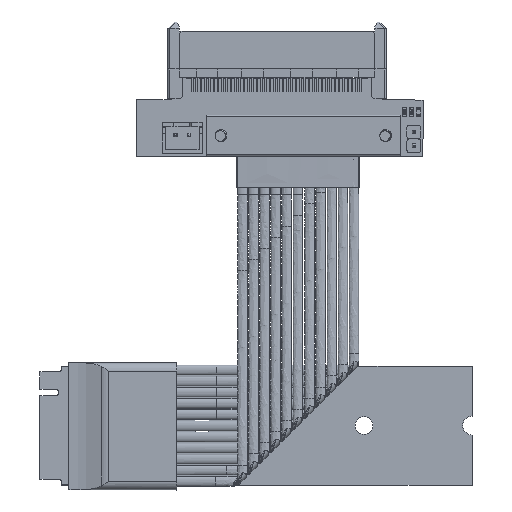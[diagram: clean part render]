
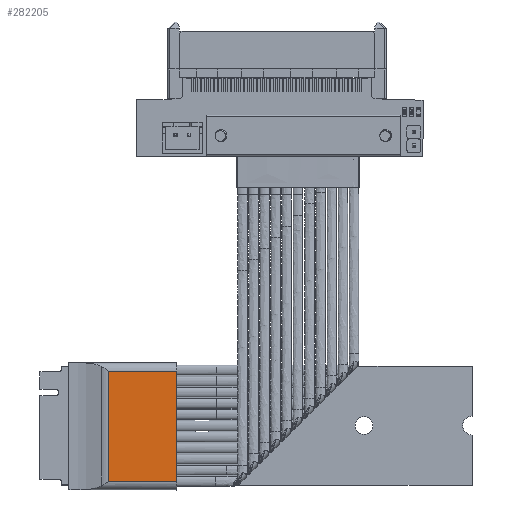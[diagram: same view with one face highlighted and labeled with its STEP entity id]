
A CAD part, top view. The second image highlights one B-rep face of the part: STEP entity #282205.
In plain terms, the highlighted planar face has unit normal (0, 0, 1).
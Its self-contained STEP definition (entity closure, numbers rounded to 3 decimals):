
#281882 = VERTEX_POINT('',#281883);
#281883 = CARTESIAN_POINT('',(1.599,20.,
    1.599));
#281890 = EDGE_CURVE('',#281891,#281882,#281893,.T.);
#281891 = VERTEX_POINT('',#281892);
#281892 = CARTESIAN_POINT('',(21.999,20.,
    1.599));
#281893 = LINE('',#281894,#281895);
#281894 = CARTESIAN_POINT('',(24.829,20.,
    1.599));
#281895 = VECTOR('',#281896,1.);
#281896 = DIRECTION('',(-1.,-0.,-0.));
#282126 = VERTEX_POINT('',#282127);
#282127 = CARTESIAN_POINT('',(21.999,7.406,
    1.599));
#282138 = EDGE_CURVE('',#282126,#282139,#282141,.T.);
#282139 = VERTEX_POINT('',#282140);
#282140 = CARTESIAN_POINT('',(1.599,7.406,
    1.599));
#282141 = LINE('',#282142,#282143);
#282142 = CARTESIAN_POINT('',(24.829,7.406,
    1.599));
#282143 = VECTOR('',#282144,1.);
#282144 = DIRECTION('',(-1.,-0.,-0.));
#282205 = ADVANCED_FACE('',(#282206),#282222,.F.);
#282206 = FACE_BOUND('',#282207,.T.);
#282207 = EDGE_LOOP('',(#282208,#282209,#282215,#282216));
#282208 = ORIENTED_EDGE('',*,*,#282138,.F.);
#282209 = ORIENTED_EDGE('',*,*,#282210,.T.);
#282210 = EDGE_CURVE('',#282126,#281891,#282211,.T.);
#282211 = LINE('',#282212,#282213);
#282212 = CARTESIAN_POINT('',(21.999,-11.693,
    1.599));
#282213 = VECTOR('',#282214,1.);
#282214 = DIRECTION('',(0.,1.,0.));
#282215 = ORIENTED_EDGE('',*,*,#281890,.T.);
#282216 = ORIENTED_EDGE('',*,*,#282217,.F.);
#282217 = EDGE_CURVE('',#282139,#281882,#282218,.T.);
#282218 = LINE('',#282219,#282220);
#282219 = CARTESIAN_POINT('',(1.599,-11.693,
    1.599));
#282220 = VECTOR('',#282221,1.);
#282221 = DIRECTION('',(0.,1.,0.));
#282222 = PLANE('',#282223);
#282223 = AXIS2_PLACEMENT_3D('',#282224,#282225,#282226);
#282224 = CARTESIAN_POINT('',(24.829,-73.074,
    1.599));
#282225 = DIRECTION('',(0.,0.,-1.));
#282226 = DIRECTION('',(0.,1.,0.));
